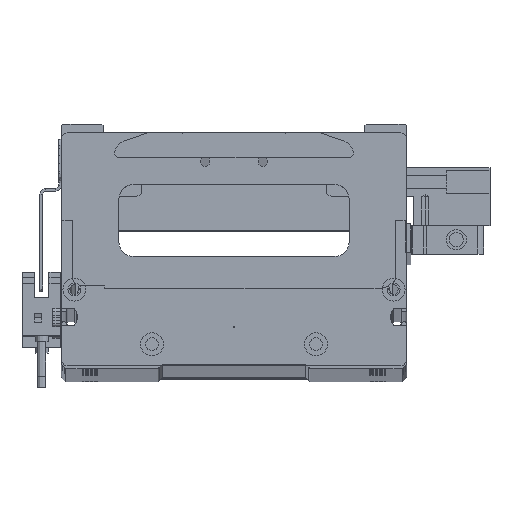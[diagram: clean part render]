
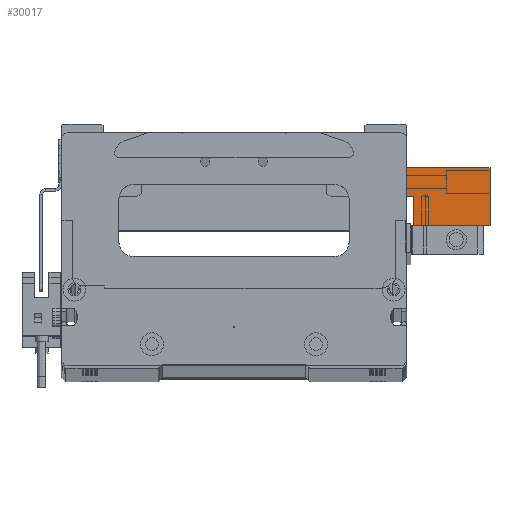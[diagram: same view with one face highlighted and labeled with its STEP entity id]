
A CAD part, top view. The second image highlights one B-rep face of the part: STEP entity #30017.
In plain terms, the highlighted planar face has unit normal (0, 0, 1) as drawn and (-1, 0, 0) by its records, which use the part's own axes.
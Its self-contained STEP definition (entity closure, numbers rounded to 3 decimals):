
#736 = VECTOR ( 'NONE', #31079, 1000. ) ;
#845 = DIRECTION ( 'NONE',  ( 0., -1., 0. ) ) ;
#2357 = LINE ( 'NONE', #32179, #8372 ) ;
#2747 = VERTEX_POINT ( 'NONE', #11441 ) ;
#2790 = ORIENTED_EDGE ( 'NONE', *, *, #4569, .T. ) ;
#3155 = PLANE ( 'NONE',  #7912 ) ;
#4209 = ORIENTED_EDGE ( 'NONE', *, *, #14857, .T. ) ;
#4400 = EDGE_CURVE ( 'NONE', #32304, #24257, #2357, .T. ) ;
#4569 = EDGE_CURVE ( 'NONE', #29950, #27382, #5129, .T. ) ;
#4946 = EDGE_CURVE ( 'NONE', #32304, #27382, #15531, .T. ) ;
#5129 = LINE ( 'NONE', #26013, #17999 ) ;
#5736 = DIRECTION ( 'NONE',  ( 1., 0., 0. ) ) ;
#7430 = CARTESIAN_POINT ( 'NONE',  ( -130.52, 37.563, 10. ) ) ;
#7717 = CARTESIAN_POINT ( 'NONE',  ( -130.52, 64.063, 20. ) ) ;
#7912 = AXIS2_PLACEMENT_3D ( 'NONE', #31523, #5736, #13218 ) ;
#8372 = VECTOR ( 'NONE', #16721, 1000. ) ;
#9059 = ORIENTED_EDGE ( 'NONE', *, *, #4946, .F. ) ;
#9699 = LINE ( 'NONE', #22066, #16475 ) ;
#9767 = ORIENTED_EDGE ( 'NONE', *, *, #4400, .T. ) ;
#9994 = CARTESIAN_POINT ( 'NONE',  ( -130.52, 64.063, 20. ) ) ;
#11327 = VERTEX_POINT ( 'NONE', #26260 ) ;
#11441 = CARTESIAN_POINT ( 'NONE',  ( -130.52, 35.063, 0. ) ) ;
#11926 = DIRECTION ( 'NONE',  ( 0., -1., 0. ) ) ;
#12237 = LINE ( 'NONE', #18742, #22710 ) ;
#12831 = EDGE_CURVE ( 'NONE', #29950, #11327, #12237, .T. ) ;
#13025 = CARTESIAN_POINT ( 'NONE',  ( -130.52, 35.063, 20. ) ) ;
#13218 = DIRECTION ( 'NONE',  ( 0., 0., -1. ) ) ;
#14857 = EDGE_CURVE ( 'NONE', #24257, #2747, #9699, .T. ) ;
#14954 = ORIENTED_EDGE ( 'NONE', *, *, #20780, .F. ) ;
#15531 = LINE ( 'NONE', #7717, #23648 ) ;
#15766 = DIRECTION ( 'NONE',  ( 0., -1., 0. ) ) ;
#16233 = CARTESIAN_POINT ( 'NONE',  ( -130.52, 37.563, 20. ) ) ;
#16383 = LINE ( 'NONE', #13025, #736 ) ;
#16475 = VECTOR ( 'NONE', #11926, 1000. ) ;
#16721 = DIRECTION ( 'NONE',  ( 0., 0., -1. ) ) ;
#17999 = VECTOR ( 'NONE', #23773, 1000. ) ;
#18742 = CARTESIAN_POINT ( 'NONE',  ( -130.52, 35.063, 10. ) ) ;
#20780 = EDGE_CURVE ( 'NONE', #11327, #2747, #16383, .T. ) ;
#22066 = CARTESIAN_POINT ( 'NONE',  ( -130.52, 64.063, 0. ) ) ;
#22710 = VECTOR ( 'NONE', #845, 1000. ) ;
#23648 = VECTOR ( 'NONE', #15766, 1000. ) ;
#23773 = DIRECTION ( 'NONE',  ( 0., 0., 1. ) ) ;
#24257 = VERTEX_POINT ( 'NONE', #26197 ) ;
#26013 = CARTESIAN_POINT ( 'NONE',  ( -130.52, 37.563, 10. ) ) ;
#26197 = CARTESIAN_POINT ( 'NONE',  ( -130.52, 64.063, 0. ) ) ;
#26260 = CARTESIAN_POINT ( 'NONE',  ( -130.52, 35.063, 10. ) ) ;
#27382 = VERTEX_POINT ( 'NONE', #16233 ) ;
#28093 = EDGE_LOOP ( 'NONE', ( #30674, #2790, #9059, #9767, #4209, #14954 ) ) ;
#28757 = FACE_OUTER_BOUND ( 'NONE', #28093, .T. ) ;
#29950 = VERTEX_POINT ( 'NONE', #7430 ) ;
#30017 = ADVANCED_FACE ( 'NONE', ( #28757 ), #3155, .F. ) ;
#30674 = ORIENTED_EDGE ( 'NONE', *, *, #12831, .F. ) ;
#31079 = DIRECTION ( 'NONE',  ( 0., 0., -1. ) ) ;
#31523 = CARTESIAN_POINT ( 'NONE',  ( -130.52, 64.063, 20. ) ) ;
#32179 = CARTESIAN_POINT ( 'NONE',  ( -130.52, 64.063, 20. ) ) ;
#32304 = VERTEX_POINT ( 'NONE', #9994 ) ;
